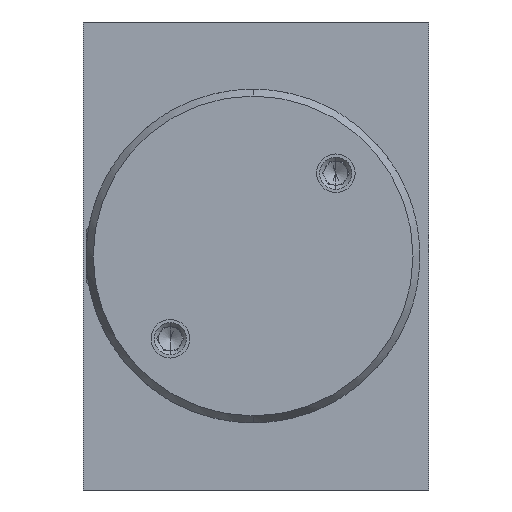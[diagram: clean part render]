
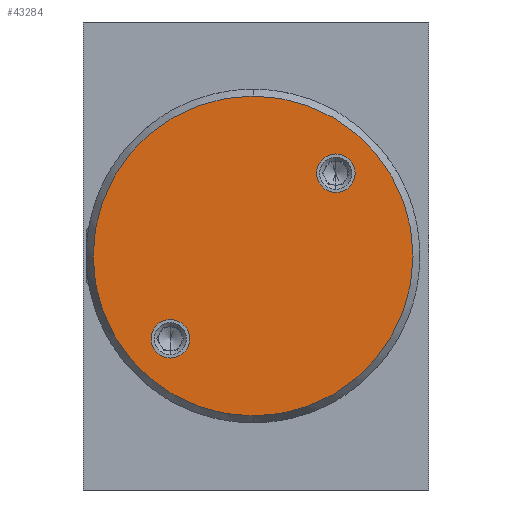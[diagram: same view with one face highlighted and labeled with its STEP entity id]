
A CAD part, left-side view. The second image highlights one B-rep face of the part: STEP entity #43284.
In plain terms, the highlighted planar face has unit normal (-1, 0, 0).
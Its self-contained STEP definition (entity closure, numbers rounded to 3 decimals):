
#1619 = DIRECTION ( 'NONE',  ( -1., 0., 0. ) ) ;
#2477 = EDGE_LOOP ( 'NONE', ( #19738, #25106 ) ) ;
#3578 = CARTESIAN_POINT ( 'NONE',  ( -37., -6.821, 7.071 ) ) ;
#5312 = CIRCLE ( 'NONE', #56966, 1.65 ) ;
#5938 = CARTESIAN_POINT ( 'NONE',  ( -37., 7.321, -5.421 ) ) ;
#6196 = FACE_BOUND ( 'NONE', #61611, .T. ) ;
#6345 = ORIENTED_EDGE ( 'NONE', *, *, #34029, .F. ) ;
#6927 = EDGE_CURVE ( 'NONE', #9542, #60682, #54632, .T. ) ;
#7894 = EDGE_CURVE ( 'NONE', #50473, #52839, #14469, .T. ) ;
#8665 = DIRECTION ( 'NONE',  ( 0., 0., 1. ) ) ;
#9542 = VERTEX_POINT ( 'NONE', #14271 ) ;
#11641 = CIRCLE ( 'NONE', #64328, 1.65 ) ;
#13603 = EDGE_LOOP ( 'NONE', ( #18766, #56434 ) ) ;
#14271 = CARTESIAN_POINT ( 'NONE',  ( -37., -6.821, 5.421 ) ) ;
#14469 = CIRCLE ( 'NONE', #49738, 1.65 ) ;
#15983 = AXIS2_PLACEMENT_3D ( 'NONE', #31774, #1619, #36876 ) ;
#17749 = CARTESIAN_POINT ( 'NONE',  ( -37., 7.321, -7.071 ) ) ;
#18186 = PLANE ( 'NONE',  #28203 ) ;
#18766 = ORIENTED_EDGE ( 'NONE', *, *, #35170, .F. ) ;
#19738 = ORIENTED_EDGE ( 'NONE', *, *, #43045, .T. ) ;
#20166 = CARTESIAN_POINT ( 'NONE',  ( -37., 0.25, 0. ) ) ;
#22265 = CARTESIAN_POINT ( 'NONE',  ( -37., -6.821, 7.071 ) ) ;
#22798 = DIRECTION ( 'NONE',  ( 0., 0., 1. ) ) ;
#23450 = DIRECTION ( 'NONE',  ( -1., 0., 0. ) ) ;
#24078 = CARTESIAN_POINT ( 'NONE',  ( -37., 7.321, -7.071 ) ) ;
#24710 = CARTESIAN_POINT ( 'NONE',  ( -37., 0.25, -13.673 ) ) ;
#25106 = ORIENTED_EDGE ( 'NONE', *, *, #44788, .T. ) ;
#25218 = DIRECTION ( 'NONE',  ( 0., 0., 1. ) ) ;
#27333 = DIRECTION ( 'NONE',  ( 0., 0., 1. ) ) ;
#28203 = AXIS2_PLACEMENT_3D ( 'NONE', #53516, #23450, #58565 ) ;
#28622 = CIRCLE ( 'NONE', #65228, 13.673 ) ;
#29110 = DIRECTION ( 'NONE',  ( 0., 0., 1. ) ) ;
#31125 = CARTESIAN_POINT ( 'NONE',  ( -37., -6.821, 8.721 ) ) ;
#31774 = CARTESIAN_POINT ( 'NONE',  ( -37., 0.25, 0. ) ) ;
#32979 = FACE_OUTER_BOUND ( 'NONE', #2477, .T. ) ;
#34029 = EDGE_CURVE ( 'NONE', #60682, #9542, #11641, .T. ) ;
#35170 = EDGE_CURVE ( 'NONE', #52839, #50473, #5312, .T. ) ;
#36876 = DIRECTION ( 'NONE',  ( 0., 0., 1. ) ) ;
#38829 = DIRECTION ( 'NONE',  ( -1., 0., 0. ) ) ;
#39120 = VERTEX_POINT ( 'NONE', #24710 ) ;
#43045 = EDGE_CURVE ( 'NONE', #39120, #51863, #63502, .T. ) ;
#43284 = ADVANCED_FACE ( 'NONE', ( #32979, #46278, #6196 ), #18186, .T. ) ;
#44788 = EDGE_CURVE ( 'NONE', #51863, #39120, #28622, .T. ) ;
#46278 = FACE_BOUND ( 'NONE', #13603, .T. ) ;
#47124 = AXIS2_PLACEMENT_3D ( 'NONE', #22265, #57419, #27333 ) ;
#47414 = ORIENTED_EDGE ( 'NONE', *, *, #6927, .F. ) ;
#49738 = AXIS2_PLACEMENT_3D ( 'NONE', #17749, #52849, #22798 ) ;
#50473 = VERTEX_POINT ( 'NONE', #53547 ) ;
#51863 = VERTEX_POINT ( 'NONE', #65283 ) ;
#52839 = VERTEX_POINT ( 'NONE', #5938 ) ;
#52849 = DIRECTION ( 'NONE',  ( -1., 0., 0. ) ) ;
#53516 = CARTESIAN_POINT ( 'NONE',  ( -37., 0.25, 0. ) ) ;
#53547 = CARTESIAN_POINT ( 'NONE',  ( -37., 7.321, -8.721 ) ) ;
#54632 = CIRCLE ( 'NONE', #47124, 1.65 ) ;
#55302 = DIRECTION ( 'NONE',  ( -1., 0., 0. ) ) ;
#56434 = ORIENTED_EDGE ( 'NONE', *, *, #7894, .F. ) ;
#56966 = AXIS2_PLACEMENT_3D ( 'NONE', #24078, #59194, #29110 ) ;
#57419 = DIRECTION ( 'NONE',  ( -1., 0., 0. ) ) ;
#58565 = DIRECTION ( 'NONE',  ( 0., 0., 1. ) ) ;
#59194 = DIRECTION ( 'NONE',  ( -1., 0., 0. ) ) ;
#60682 = VERTEX_POINT ( 'NONE', #31125 ) ;
#61611 = EDGE_LOOP ( 'NONE', ( #6345, #47414 ) ) ;
#63502 = CIRCLE ( 'NONE', #15983, 13.673 ) ;
#64328 = AXIS2_PLACEMENT_3D ( 'NONE', #3578, #38829, #8665 ) ;
#65228 = AXIS2_PLACEMENT_3D ( 'NONE', #20166, #55302, #25218 ) ;
#65283 = CARTESIAN_POINT ( 'NONE',  ( -37., 0.25, 13.673 ) ) ;
